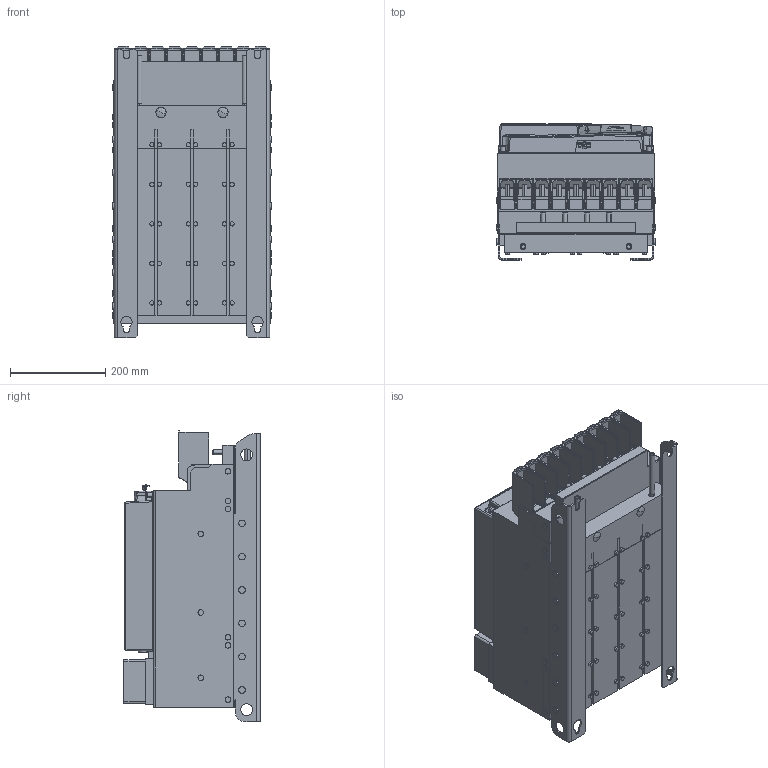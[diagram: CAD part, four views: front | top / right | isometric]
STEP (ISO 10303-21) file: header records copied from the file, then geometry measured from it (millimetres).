
FILE_DESCRIPTION (( 'STEP AP214' ), '1' );
FILE_NAME ('F6-7TW0-P151.STEP', '2021-02-26T14:04:38', ( '' ), ( '' ), 'SwSTEP 2.0', 'SolidWorks 2019', '' );
FILE_SCHEMA (( 'AUTOMOTIVE_DESIGN' ));
Length unit declared in the file: millimetre
Products named in the file (13): 10043622_000_70F6 Klemme (Kundenmodell); 10061504_000_Gehеsebaugruppe ohne L’terkarte; 10061630_000; 10059765_000; 10061502_000_Deckel (Kundenmodell); 10045475_000_Geh„usebaugruppe F6-7 (Kundenmodell); 10059762_000_Kundenmodell mit Geberbuchsen; 10059764_000_Blindabdeckung (Kundenmodell); 10060724_000_ Leistungsteil + BW F6-7 TW0 (Kundenmodell); 10061503_000; F6-7TW0-P151; 10051076_000_Kundenmodell; 10061522_000
Assembly tree (12 placements, depth 4):
  F6-7TW0-P151
    10060724_000_ Leistungsteil + BW F6-7 TW0 (Kundenmodell)
      10043622_000_70F6 Klemme (Kundenmodell)
        10061522_000
      10061630_000
    10045475_000_Geh„usebaugruppe F6-7 (Kundenmodell)
      10061502_000_Deckel (Kundenmodell)
        10061503_000
      10061504_000_Gehеsebaugruppe ohne L’terkarte
    10051076_000_Kundenmodell
      10059764_000_Blindabdeckung (Kundenmodell)
        10059765_000
      10059762_000_Kundenmodell mit Geberbuchsen
Bounding box: 335.4 x 285.9 x 611.76 mm (x, y, z)
Volume: 42356828.8 mm3; surface area: 2194547.2 mm2
Topology: 12 solids, 12 shells, 3200 faces, 8145 edges, 5011 vertices
Faces by surface type: plane 1627, cylinder 984, bspline 278, sphere 176, torus 73, cone 62
Entity records: 103026 total; most frequent: CARTESIAN_POINT 27778, ORIENTED_EDGE 16068, DIRECTION 14869, EDGE_CURVE 8034, LINE 5113, VECTOR 5113, VERTEX_POINT 5008, AXIS2_PLACEMENT_3D 4878
